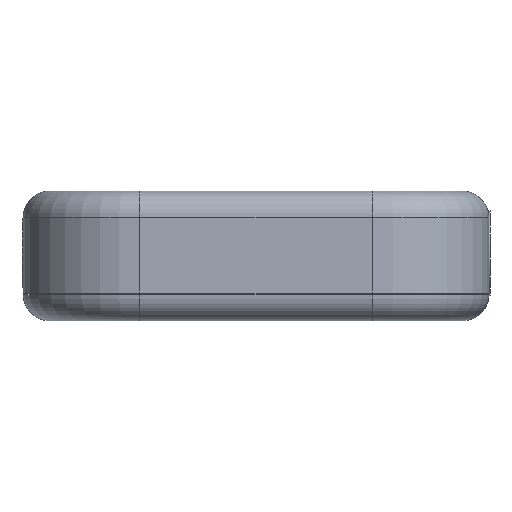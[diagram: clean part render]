
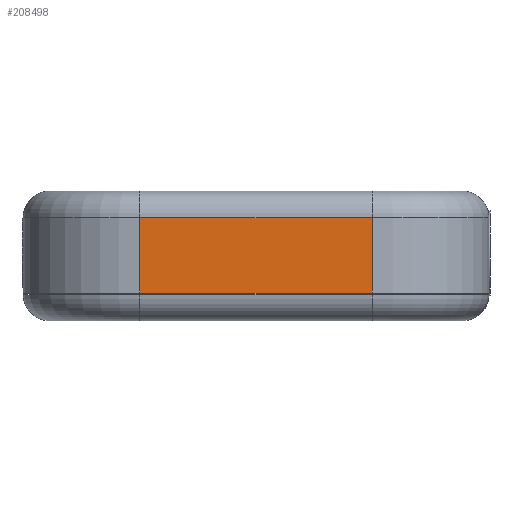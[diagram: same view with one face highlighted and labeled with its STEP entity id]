
A CAD part, front view. The second image highlights one B-rep face of the part: STEP entity #208498.
In plain terms, the highlighted planar face has unit normal (0, -1, 0).
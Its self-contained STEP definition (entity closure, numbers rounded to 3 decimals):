
#205914 = CYLINDRICAL_SURFACE('',#205915,5.);
#205915 = AXIS2_PLACEMENT_3D('',#205916,#205917,#205918);
#205916 = CARTESIAN_POINT('',(22.,-63.,6.75));
#205917 = DIRECTION('',(-1.,-0.,-0.));
#205918 = DIRECTION('',(0.,-1.,0.));
#206635 = VERTEX_POINT('',#206636);
#206636 = CARTESIAN_POINT('',(-22.,-68.,6.75));
#206651 = CYLINDRICAL_SURFACE('',#206652,22.);
#206652 = AXIS2_PLACEMENT_3D('',#206653,#206654,#206655);
#206653 = CARTESIAN_POINT('',(-22.,-46.,-12.75));
#206654 = DIRECTION('',(0.,0.,1.));
#206655 = DIRECTION('',(-1.,-0.,0.));
#206689 = VERTEX_POINT('',#206690);
#206690 = CARTESIAN_POINT('',(22.,-68.,6.75));
#206714 = EDGE_CURVE('',#206689,#206635,#206715,.T.);
#206715 = SURFACE_CURVE('',#206716,(#206720,#206727),.PCURVE_S1.);
#206716 = LINE('',#206717,#206718);
#206717 = CARTESIAN_POINT('',(22.,-68.,6.75));
#206718 = VECTOR('',#206719,1.);
#206719 = DIRECTION('',(-1.,-0.,-0.));
#206720 = PCURVE('',#205914,#206721);
#206721 = DEFINITIONAL_REPRESENTATION('',(#206722),#206726);
#206722 = LINE('',#206723,#206724);
#206723 = CARTESIAN_POINT('',(0.,0.));
#206724 = VECTOR('',#206725,1.);
#206725 = DIRECTION('',(0.,1.));
#206726 = ( GEOMETRIC_REPRESENTATION_CONTEXT(2) 
PARAMETRIC_REPRESENTATION_CONTEXT() REPRESENTATION_CONTEXT('2D SPACE',''
  ) );
#206727 = PCURVE('',#206728,#206733);
#206728 = PLANE('',#206729);
#206729 = AXIS2_PLACEMENT_3D('',#206730,#206731,#206732);
#206730 = CARTESIAN_POINT('',(-44.,-68.,-12.75));
#206731 = DIRECTION('',(0.,1.,0.));
#206732 = DIRECTION('',(0.,-0.,1.));
#206733 = DEFINITIONAL_REPRESENTATION('',(#206734),#206738);
#206734 = LINE('',#206735,#206736);
#206735 = CARTESIAN_POINT('',(19.5,66.));
#206736 = VECTOR('',#206737,1.);
#206737 = DIRECTION('',(0.,-1.));
#206738 = ( GEOMETRIC_REPRESENTATION_CONTEXT(2) 
PARAMETRIC_REPRESENTATION_CONTEXT() REPRESENTATION_CONTEXT('2D SPACE',''
  ) );
#206762 = CYLINDRICAL_SURFACE('',#206763,22.);
#206763 = AXIS2_PLACEMENT_3D('',#206764,#206765,#206766);
#206764 = CARTESIAN_POINT('',(22.,-46.,-12.75));
#206765 = DIRECTION('',(0.,0.,1.));
#206766 = DIRECTION('',(1.,0.,-0.));
#207986 = PLANE('',#207987);
#207987 = AXIS2_PLACEMENT_3D('',#207988,#207989,#207990);
#207988 = CARTESIAN_POINT('',(-90.,-110.,-7.5));
#207989 = DIRECTION('',(0.,0.,1.));
#207990 = DIRECTION('',(1.,0.,-0.));
#208454 = VERTEX_POINT('',#208455);
#208455 = CARTESIAN_POINT('',(-22.,-68.,-7.5));
#208477 = EDGE_CURVE('',#208454,#206635,#208478,.T.);
#208478 = SURFACE_CURVE('',#208479,(#208483,#208490),.PCURVE_S1.);
#208479 = LINE('',#208480,#208481);
#208480 = CARTESIAN_POINT('',(-22.,-68.,-12.75));
#208481 = VECTOR('',#208482,1.);
#208482 = DIRECTION('',(0.,0.,1.));
#208483 = PCURVE('',#206651,#208484);
#208484 = DEFINITIONAL_REPRESENTATION('',(#208485),#208489);
#208485 = LINE('',#208486,#208487);
#208486 = CARTESIAN_POINT('',(1.571,0.));
#208487 = VECTOR('',#208488,1.);
#208488 = DIRECTION('',(0.,1.));
#208489 = ( GEOMETRIC_REPRESENTATION_CONTEXT(2) 
PARAMETRIC_REPRESENTATION_CONTEXT() REPRESENTATION_CONTEXT('2D SPACE',''
  ) );
#208490 = PCURVE('',#206728,#208491);
#208491 = DEFINITIONAL_REPRESENTATION('',(#208492),#208496);
#208492 = LINE('',#208493,#208494);
#208493 = CARTESIAN_POINT('',(0.,22.));
#208494 = VECTOR('',#208495,1.);
#208495 = DIRECTION('',(1.,0.));
#208496 = ( GEOMETRIC_REPRESENTATION_CONTEXT(2) 
PARAMETRIC_REPRESENTATION_CONTEXT() REPRESENTATION_CONTEXT('2D SPACE',''
  ) );
#208498 = ADVANCED_FACE('',(#208499),#206728,.F.);
#208499 = FACE_BOUND('',#208500,.F.);
#208500 = EDGE_LOOP('',(#208501,#208524,#208525,#208526));
#208501 = ORIENTED_EDGE('',*,*,#208502,.F.);
#208502 = EDGE_CURVE('',#208454,#208503,#208505,.T.);
#208503 = VERTEX_POINT('',#208504);
#208504 = CARTESIAN_POINT('',(22.,-68.,-7.5));
#208505 = SURFACE_CURVE('',#208506,(#208510,#208517),.PCURVE_S1.);
#208506 = LINE('',#208507,#208508);
#208507 = CARTESIAN_POINT('',(-67.,-68.,-7.5));
#208508 = VECTOR('',#208509,1.);
#208509 = DIRECTION('',(1.,0.,0.));
#208510 = PCURVE('',#206728,#208511);
#208511 = DEFINITIONAL_REPRESENTATION('',(#208512),#208516);
#208512 = LINE('',#208513,#208514);
#208513 = CARTESIAN_POINT('',(5.25,-23.));
#208514 = VECTOR('',#208515,1.);
#208515 = DIRECTION('',(0.,1.));
#208516 = ( GEOMETRIC_REPRESENTATION_CONTEXT(2) 
PARAMETRIC_REPRESENTATION_CONTEXT() REPRESENTATION_CONTEXT('2D SPACE',''
  ) );
#208517 = PCURVE('',#207986,#208518);
#208518 = DEFINITIONAL_REPRESENTATION('',(#208519),#208523);
#208519 = LINE('',#208520,#208521);
#208520 = CARTESIAN_POINT('',(23.,42.));
#208521 = VECTOR('',#208522,1.);
#208522 = DIRECTION('',(1.,0.));
#208523 = ( GEOMETRIC_REPRESENTATION_CONTEXT(2) 
PARAMETRIC_REPRESENTATION_CONTEXT() REPRESENTATION_CONTEXT('2D SPACE',''
  ) );
#208524 = ORIENTED_EDGE('',*,*,#208477,.T.);
#208525 = ORIENTED_EDGE('',*,*,#206714,.F.);
#208526 = ORIENTED_EDGE('',*,*,#208527,.F.);
#208527 = EDGE_CURVE('',#208503,#206689,#208528,.T.);
#208528 = SURFACE_CURVE('',#208529,(#208533,#208540),.PCURVE_S1.);
#208529 = LINE('',#208530,#208531);
#208530 = CARTESIAN_POINT('',(22.,-68.,-12.75));
#208531 = VECTOR('',#208532,1.);
#208532 = DIRECTION('',(0.,0.,1.));
#208533 = PCURVE('',#206728,#208534);
#208534 = DEFINITIONAL_REPRESENTATION('',(#208535),#208539);
#208535 = LINE('',#208536,#208537);
#208536 = CARTESIAN_POINT('',(0.,66.));
#208537 = VECTOR('',#208538,1.);
#208538 = DIRECTION('',(1.,0.));
#208539 = ( GEOMETRIC_REPRESENTATION_CONTEXT(2) 
PARAMETRIC_REPRESENTATION_CONTEXT() REPRESENTATION_CONTEXT('2D SPACE',''
  ) );
#208540 = PCURVE('',#206762,#208541);
#208541 = DEFINITIONAL_REPRESENTATION('',(#208542),#208546);
#208542 = LINE('',#208543,#208544);
#208543 = CARTESIAN_POINT('',(4.712,0.));
#208544 = VECTOR('',#208545,1.);
#208545 = DIRECTION('',(-0.,1.));
#208546 = ( GEOMETRIC_REPRESENTATION_CONTEXT(2) 
PARAMETRIC_REPRESENTATION_CONTEXT() REPRESENTATION_CONTEXT('2D SPACE',''
  ) );
